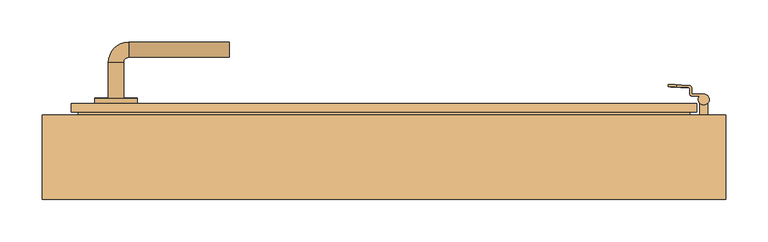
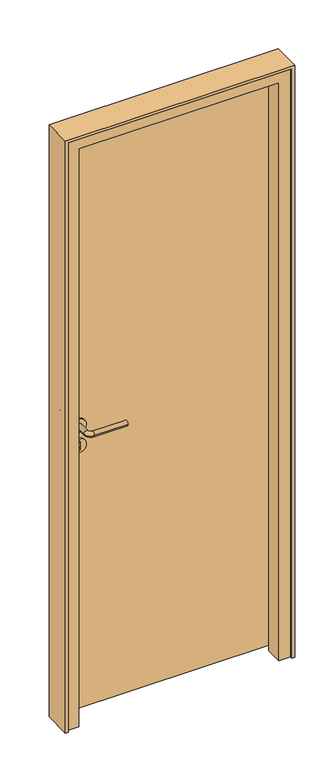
"""IFC4 building model written with IfcOpenShell, lengths in millimetres: door geometry, JW_Interior_Door_Steady_411_Single_1.0 : 790 x 1890 mm - M8 x M19."""

from ifc_helpers import new_model, si_unit, point, frame, frame_2d, origin, place, context, project, spatial, polyline, circle_curve, ellipse_curve, trimmed, segment, composite_curve, outline, extrude, faceted_brep, source, transform, mapped, element, save
from ifc_brep_helpers import plane_surface, cylinder_surface, revolved_surface, advanced_brep


def door_badb6875(model_context):
    return source(origin(), model_context, "Body", "SolidModel", [
        advanced_brep(
        [(373.7783893, 72.4981462, 1955.5), (378.8990677, 74.995861, 1955.5), (365.3903905, 74.995861, 1955.5), (364.5812249, 75.8050266, 1955.5), (364.5812249, 81.7870548, 1955.5), (361.3684354, 84.9998443, 1955.5), (352.0437223, 85.4885318, 1955.5), (347.0505746, 85.7502116, 1955.5), (346.9197347, 83.2536378, 1955.5), (351.9128824, 82.991958, 1955.5), (361.3, 82.5, 1955.5), (362.0997148, 81.7002852, 1955.5), (362.0997148, 75.6990018, 1955.5), (365.3005704, 72.4981462, 1955.5), (373.7783893, 72.4981462, 1890.5), (365.3005704, 72.4981462, 1890.5), (362.0997148, 75.6990018, 1890.5), (362.0997148, 81.7002852, 1890.5), (361.3, 82.5, 1890.5), (351.9128824, 82.991958, 1890.5), (346.9197347, 83.2536378, 1890.5), (347.0505746, 85.7502116, 1890.5), (352.0437223, 85.4885318, 1890.5), (361.3684354, 84.9998443, 1890.5), (364.5812249, 81.7870548, 1890.5), (364.5812249, 75.8050266, 1890.5), (365.3903905, 74.995861, 1890.5), (378.8990677, 74.995861, 1890.5), (378.8990677, 74.995861, 1910.0), (373.7783893, 72.4981462, 1910.0), (373.7783893, 72.4981462, 1936.0), (378.8990677, 74.995861, 1936.0), (365.3005704, 72.4981462, 1910.0), (365.3005704, 72.4981462, 1936.0), (362.0997148, 75.6990018, 1910.0), (362.0997148, 75.6990018, 1936.0), (362.0997148, 78.5, 1910.0), (362.0997148, 78.5, 1936.0), (336.9334394, 83.7769973, 1945.5), (336.9334394, 83.7769973, 1900.5), (337.0642792, 86.2735712, 1945.5), (337.0642792, 86.2735712, 1900.5), (364.5812249, 75.8050266, 1936.0), (364.5812249, 78.5, 1936.0), (364.5812249, 78.5, 1910.0), (364.5812249, 75.8050266, 1910.0), (365.3903905, 74.995861, 1910.0), (365.3903905, 74.995861, 1936.0)],
        [
            (0, 1, circle_curve(frame((378.8990677, 68.497936, 1955.5), z_axis=(0.0, 0.0, 1.0), x_axis=(-1.0, 0.0, 0.0)), 6.4979249)),
            (1, 2),
            (2, 3, circle_curve(frame((365.3903905, 75.8050266, 1955.5), z_axis=(0.0, 0.0, -1.0), x_axis=(-1.0, 0.0, 0.0)), 0.8091657)),
            (3, 4),
            (4, 5, circle_curve(frame((361.3684354, 81.7870548, 1955.5), z_axis=(0.0, 0.0, 1.0), x_axis=(-1.0, 0.0, 0.0)), 3.2127895)),
            (5, 6),
            (6, 7),
            (7, 8),
            (8, 9),
            (9, 10),
            (10, 11, circle_curve(frame((361.3, 81.7002852, 1955.5), z_axis=(0.0, 0.0, -1.0), x_axis=(-1.0, 0.0, 0.0)), 0.7997148)),
            (11, 12),
            (12, 13, circle_curve(frame((365.3005704, 75.6990018, 1955.5), z_axis=(0.0, 0.0, 1.0), x_axis=(-1.0, 0.0, 0.0)), 3.2008556)),
            (13, 0),
            (14, 15),
            (15, 16, circle_curve(frame((365.3005704, 75.6990018, 1890.5), z_axis=(0.0, 0.0, -1.0), x_axis=(-1.0, 0.0, 0.0)), 3.2008556)),
            (16, 17),
            (17, 18, circle_curve(frame((361.3, 81.7002852, 1890.5), z_axis=(0.0, 0.0, 1.0), x_axis=(-1.0, 0.0, 0.0)), 0.7997148)),
            (18, 19),
            (19, 20),
            (20, 21),
            (21, 22),
            (22, 23),
            (23, 24, circle_curve(frame((361.3684354, 81.7870548, 1890.5), z_axis=(0.0, 0.0, -1.0), x_axis=(-1.0, 0.0, 0.0)), 3.2127895)),
            (24, 25),
            (25, 26, circle_curve(frame((365.3903905, 75.8050266, 1890.5), z_axis=(0.0, 0.0, 1.0), x_axis=(-1.0, 0.0, 0.0)), 0.8091657)),
            (26, 27),
            (27, 14, circle_curve(frame((378.8990677, 68.497936, 1890.5), z_axis=(0.0, 0.0, -1.0), x_axis=(-1.0, 0.0, 0.0)), 6.4979249)),
            (27, 28),
            (28, 29, circle_curve(frame((378.8990677, 68.497936, 1910.0), z_axis=(0.0, 0.0, -1.0), x_axis=(-1.0, 0.0, 0.0)), 6.4979249)),
            (29, 14),
            (0, 30),
            (30, 31, circle_curve(frame((378.8990677, 68.497936, 1936.0), z_axis=(0.0, 0.0, 1.0), x_axis=(-1.0, 0.0, 0.0)), 6.4979249)),
            (31, 1),
            (29, 32),
            (32, 15),
            (13, 33),
            (33, 30),
            (32, 34, circle_curve(frame((365.3005704, 75.6990018, 1910.0), z_axis=(0.0, 0.0, -1.0), x_axis=(-1.0, 0.0, 0.0)), 3.2008556)),
            (34, 16),
            (12, 35),
            (35, 33, circle_curve(frame((365.3005704, 75.6990018, 1936.0), z_axis=(0.0, 0.0, 1.0), x_axis=(-1.0, 0.0, 0.0)), 3.2008556)),
            (11, 17),
            (34, 36),
            (36, 37),
            (37, 35),
            (10, 18),
            (8, 38, circle_curve(frame((346.9197347, 83.2536378, 1945.5), z_axis=(-0.05233595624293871, -0.9986295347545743, 0.0), x_axis=(0.9986295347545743, -0.05233595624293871, 0.0)), 10.0)),
            (38, 39),
            (39, 20, circle_curve(frame((346.9197347, 83.2536378, 1900.5), z_axis=(-0.05233595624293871, -0.9986295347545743, 0.0), x_axis=(0.9986295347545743, -0.05233595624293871, 0.0)), 10.0)),
            (38, 40),
            (40, 41),
            (41, 39),
            (21, 41, circle_curve(frame((347.0505746, 85.7502116, 1900.5), z_axis=(0.05233595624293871, 0.9986295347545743, 0.0), x_axis=(0.9986295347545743, -0.05233595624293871, 0.0)), 10.0)),
            (40, 7, circle_curve(frame((347.0505746, 85.7502116, 1945.5), z_axis=(0.05233595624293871, 0.9986295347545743, 0.0), x_axis=(0.9986295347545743, -0.05233595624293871, 0.0)), 10.0)),
            (5, 23),
            (4, 24),
            (3, 42),
            (42, 43),
            (43, 44),
            (44, 45),
            (45, 25),
            (45, 46, circle_curve(frame((365.3903905, 75.8050266, 1910.0), z_axis=(0.0, 0.0, 1.0), x_axis=(-1.0, 0.0, 0.0)), 0.8091657)),
            (46, 26),
            (2, 47),
            (47, 42, circle_curve(frame((365.3903905, 75.8050266, 1936.0), z_axis=(0.0, 0.0, -1.0), x_axis=(-1.0, 0.0, 0.0)), 0.8091657)),
            (31, 47),
            (46, 28),
            (37, 43),
            (44, 36),
        ],
        [
            plane_surface(frame((365.3005704, 72.4981462, 1955.5), z_axis=(0.0, 0.0, 1.0), x_axis=(-1.0, 0.0, 0.0))),
            plane_surface(frame((365.3005704, 72.4981462, 1890.5), z_axis=(0.0, 0.0, -1.0), x_axis=(1.0, 0.0, 0.0))),
            cylinder_surface(frame((378.8990677, 68.497936, 1890.5), z_axis=(0.0, 0.0, 1.0), x_axis=(-1.0, 0.0, 0.0)), 6.4979249),
            plane_surface(frame((373.7783893, 72.4981462, 1955.5), z_axis=(0.0, -1.0, 0.0), x_axis=(0.0, 0.0, -1.0))),
            cylinder_surface(frame((365.3005704, 75.6990018, 1890.5), z_axis=(0.0, 0.0, 1.0), x_axis=(-1.0, 0.0, 0.0)), 3.2008556),
            plane_surface(frame((362.0997148, 75.6990018, 1955.5), z_axis=(-1.0, 0.0, 0.0), x_axis=(0.0, 0.0, -1.0))),
            revolved_surface(polyline([(360.5002852, 81.7002852, 1890.5), (360.5002852, 81.7002852, 1955.5)]), (361.3, 81.7002852, 1890.5), (0.0, 0.0, -1.0)),
            plane_surface(frame((361.3, 82.5, 1955.5), z_axis=(-0.0523359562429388, -0.9986295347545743, 0.0), x_axis=(0.0, 0.0, -1.0))),
            plane_surface(frame((336.9334394, 83.7769973, 1955.5), z_axis=(-0.998629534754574, 0.05233595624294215, 0.0), x_axis=(0.0, 0.0, -1.0))),
            plane_surface(frame((337.0642792, 86.2735712, 1955.5), z_axis=(0.052335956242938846, 0.9986295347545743, 0.0), x_axis=(0.0, 0.0, -1.0))),
            cylinder_surface(frame((361.3684354, 81.7870548, 1890.5), z_axis=(0.0, 0.0, 1.0), x_axis=(-1.0, 0.0, 0.0)), 3.2127895),
            plane_surface(frame((364.5812249, 81.7870548, 1955.5), z_axis=(1.0, 0.0, 0.0), x_axis=(0.0, 0.0, -1.0))),
            revolved_surface(polyline([(364.58122480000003, 75.8050266, 1890.5), (364.58122480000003, 75.8050266, 1910.0)]), (365.3903905, 75.8050266, 1890.5), (0.0, 0.0, -1.0)),
            revolved_surface(polyline([(364.58122480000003, 75.8050266, 1936.0), (364.58122480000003, 75.8050266, 1955.5)]), (365.3903905, 75.8050266, 1890.5), (0.0, 0.0, -1.0)),
            plane_surface(frame((365.3903905, 74.995861, 1955.5), z_axis=(0.0, 1.0, 0.0), x_axis=(0.0, 0.0, -1.0))),
            plane_surface(frame((388.9564762, 60.9150154, 1936.0), z_axis=(0.0, 0.0, -1.0), x_axis=(0.0, -1.0, 0.0))),
            plane_surface(frame((388.9564762, 60.9150154, 1910.0), z_axis=(0.0, 0.0, 1.0), x_axis=(0.0, 1.0, 0.0))),
            plane_surface(frame((358.9564762, 78.5, 1936.0), z_axis=(0.0, -1.0, 0.0), x_axis=(0.0, 0.0, -1.0))),
            cylinder_surface(frame((346.6580549, 78.2604901, 1900.5), z_axis=(-0.05233595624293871, -0.9986295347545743, 0.0), x_axis=(0.9986295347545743, -0.05233595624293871, 0.0)), 10.0),
            cylinder_surface(frame((346.6580549, 78.2604901, 1945.5), z_axis=(-0.05233595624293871, -0.9986295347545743, 0.0), x_axis=(0.9986295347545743, -0.05233595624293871, 0.0)), 10.0),
        ],
        [
            (0, [[1, 2, 3, 4, 5, 6, 7, 8, 9, 10, 11, 12, 13, 14]]),
            (1, [[15, 16, 17, 18, 19, 20, 21, 22, 23, 24, 25, 26, 27, 28]]),
            (2, [[29, 30, 31, -28]]),
            (2, [[32, 33, 34, -1]]),
            (3, [[-31, 35, 36, -15]]),
            (3, [[37, 38, -32, -14]]),
            (4, [[-36, 39, 40, -16]]),
            (4, [[41, 42, -37, -13]]),
            (5, [[43, -17, -40, 44, 45, 46, -41, -12]]),
            (6, [[47, -18, -43, -11]]),
            (7, [[-10, -9, 48, 49, 50, -20, -19, -47]]),
            (8, [[51, 52, 53, -49]]),
            (9, [[-23, -22, 54, -52, 55, -7, -6, 56]]),
            (10, [[57, -24, -56, -5]]),
            (11, [[58, 59, 60, 61, 62, -25, -57, -4]]),
            (12, [[-62, 63, 64, -26]]),
            (13, [[65, 66, -58, -3]]),
            (14, [[-34, 67, -65, -2]]),
            (14, [[-64, 68, -29, -27]]),
            (15, [[-59, -66, -67, -33, -38, -42, -46, 69]]),
            (16, [[-44, -39, -35, -30, -68, -63, -61, 70]]),
            (17, [[-45, -70, -60, -69]]),
            (18, [[-50, -53, -54, -21]]),
            (19, [[-55, -51, -48, -8]]),
        ],
    ),
        extrude(outline(composite_curve([segment(trimmed(circle_curve(frame_2d((378.9, 68.5)), 3.75), [point((375.15, 68.5))], [point((382.65, 68.5))], False, "CARTESIAN"), True, "CONTINUOUS"), segment(trimmed(circle_curve(frame_2d((378.9, 68.5)), 3.75), [point((382.65, 68.5))], [point((375.15, 68.5))], False, "CARTESIAN"), True, "CONTINUOUS")], self_intersect=False)), frame((0.0, 0.0, 1890.5), z_axis=(0.0, 0.0, 1.0), x_axis=(1.0, 0.0, 0.0)), (0.0, 0.0, 1.0), 65.0),
        extrude(outline(composite_curve([segment(polyline([(383.9, 64.3466881), (383.9, 50.0), (373.9, 50.0), (373.9, 64.3466881)]), True, "CONTINUOUS"), segment(trimmed(circle_curve(frame_2d((378.9, 68.5)), 6.5), [point((373.9, 64.3466881))], [point((383.9, 64.3466881))], False, "CARTESIAN"), True, "CONTINUOUS")], self_intersect=False)), frame((0.0, 0.0, 1913.0), z_axis=(0.0, 0.0, 1.0), x_axis=(1.0, 0.0, 0.0)), (0.0, 0.0, 1.0), 20.0),
        advanced_brep(
        [(373.7783893, 72.4981462, 1705.5), (378.8990677, 74.995861, 1705.5), (365.3903905, 74.995861, 1705.5), (364.5812249, 75.8050266, 1705.5), (364.5812249, 81.7870548, 1705.5), (361.3684354, 84.9998443, 1705.5), (352.0437223, 85.4885318, 1705.5), (347.0505746, 85.7502116, 1705.5), (346.9197347, 83.2536378, 1705.5), (351.9128824, 82.991958, 1705.5), (361.3, 82.5, 1705.5), (362.0997148, 81.7002852, 1705.5), (362.0997148, 75.6990018, 1705.5), (365.3005704, 72.4981462, 1705.5), (373.7783893, 72.4981462, 1640.5), (365.3005704, 72.4981462, 1640.5), (362.0997148, 75.6990018, 1640.5), (362.0997148, 81.7002852, 1640.5), (361.3, 82.5, 1640.5), (351.9128824, 82.991958, 1640.5), (346.9197347, 83.2536378, 1640.5), (347.0505746, 85.7502116, 1640.5), (352.0437223, 85.4885318, 1640.5), (361.3684354, 84.9998443, 1640.5), (364.5812249, 81.7870548, 1640.5), (364.5812249, 75.8050266, 1640.5), (365.3903905, 74.995861, 1640.5), (378.8990677, 74.995861, 1640.5), (378.8990677, 74.995861, 1660.0), (373.7783893, 72.4981462, 1660.0), (373.7783893, 72.4981462, 1686.0), (378.8990677, 74.995861, 1686.0), (365.3005704, 72.4981462, 1660.0), (365.3005704, 72.4981462, 1686.0), (362.0997148, 75.6990018, 1660.0), (362.0997148, 75.6990018, 1686.0), (362.0997148, 78.5, 1660.0), (362.0997148, 78.5, 1686.0), (336.9334394, 83.7769973, 1695.5), (336.9334394, 83.7769973, 1650.5), (337.0642792, 86.2735712, 1695.5), (337.0642792, 86.2735712, 1650.5), (364.5812249, 75.8050266, 1686.0), (364.5812249, 78.5, 1686.0), (364.5812249, 78.5, 1660.0), (364.5812249, 75.8050266, 1660.0), (365.3903905, 74.995861, 1660.0), (365.3903905, 74.995861, 1686.0)],
        [
            (0, 1, circle_curve(frame((378.8990677, 68.497936, 1705.5), z_axis=(0.0, 0.0, 1.0), x_axis=(-1.0, 0.0, 0.0)), 6.4979249)),
            (1, 2),
            (2, 3, circle_curve(frame((365.3903905, 75.8050266, 1705.5), z_axis=(0.0, 0.0, -1.0), x_axis=(-1.0, 0.0, 0.0)), 0.8091657)),
            (3, 4),
            (4, 5, circle_curve(frame((361.3684354, 81.7870548, 1705.5), z_axis=(0.0, 0.0, 1.0), x_axis=(-1.0, 0.0, 0.0)), 3.2127895)),
            (5, 6),
            (6, 7),
            (7, 8),
            (8, 9),
            (9, 10),
            (10, 11, circle_curve(frame((361.3, 81.7002852, 1705.5), z_axis=(0.0, 0.0, -1.0), x_axis=(-1.0, 0.0, 0.0)), 0.7997148)),
            (11, 12),
            (12, 13, circle_curve(frame((365.3005704, 75.6990018, 1705.5), z_axis=(0.0, 0.0, 1.0), x_axis=(-1.0, 0.0, 0.0)), 3.2008556)),
            (13, 0),
            (14, 15),
            (15, 16, circle_curve(frame((365.3005704, 75.6990018, 1640.5), z_axis=(0.0, 0.0, -1.0), x_axis=(-1.0, 0.0, 0.0)), 3.2008556)),
            (16, 17),
            (17, 18, circle_curve(frame((361.3, 81.7002852, 1640.5), z_axis=(0.0, 0.0, 1.0), x_axis=(-1.0, 0.0, 0.0)), 0.7997148)),
            (18, 19),
            (19, 20),
            (20, 21),
            (21, 22),
            (22, 23),
            (23, 24, circle_curve(frame((361.3684354, 81.7870548, 1640.5), z_axis=(0.0, 0.0, -1.0), x_axis=(-1.0, 0.0, 0.0)), 3.2127895)),
            (24, 25),
            (25, 26, circle_curve(frame((365.3903905, 75.8050266, 1640.5), z_axis=(0.0, 0.0, 1.0), x_axis=(-1.0, 0.0, 0.0)), 0.8091657)),
            (26, 27),
            (27, 14, circle_curve(frame((378.8990677, 68.497936, 1640.5), z_axis=(0.0, 0.0, -1.0), x_axis=(-1.0, 0.0, 0.0)), 6.4979249)),
            (27, 28),
            (28, 29, circle_curve(frame((378.8990677, 68.497936, 1660.0), z_axis=(0.0, 0.0, -1.0), x_axis=(-1.0, 0.0, 0.0)), 6.4979249)),
            (29, 14),
            (0, 30),
            (30, 31, circle_curve(frame((378.8990677, 68.497936, 1686.0), z_axis=(0.0, 0.0, 1.0), x_axis=(-1.0, 0.0, 0.0)), 6.4979249)),
            (31, 1),
            (29, 32),
            (32, 15),
            (13, 33),
            (33, 30),
            (32, 34, circle_curve(frame((365.3005704, 75.6990018, 1660.0), z_axis=(0.0, 0.0, -1.0), x_axis=(-1.0, 0.0, 0.0)), 3.2008556)),
            (34, 16),
            (12, 35),
            (35, 33, circle_curve(frame((365.3005704, 75.6990018, 1686.0), z_axis=(0.0, 0.0, 1.0), x_axis=(-1.0, 0.0, 0.0)), 3.2008556)),
            (11, 17),
            (34, 36),
            (36, 37),
            (37, 35),
            (10, 18),
            (8, 38, circle_curve(frame((346.9197347, 83.2536378, 1695.5), z_axis=(-0.05233595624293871, -0.9986295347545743, 0.0), x_axis=(0.9986295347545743, -0.05233595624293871, 0.0)), 10.0)),
            (38, 39),
            (39, 20, circle_curve(frame((346.9197347, 83.2536378, 1650.5), z_axis=(-0.05233595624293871, -0.9986295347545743, 0.0), x_axis=(0.9986295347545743, -0.05233595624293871, 0.0)), 10.0)),
            (38, 40),
            (40, 41),
            (41, 39),
            (21, 41, circle_curve(frame((347.0505746, 85.7502116, 1650.5), z_axis=(0.05233595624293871, 0.9986295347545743, 0.0), x_axis=(0.9986295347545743, -0.05233595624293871, 0.0)), 10.0)),
            (40, 7, circle_curve(frame((347.0505746, 85.7502116, 1695.5), z_axis=(0.05233595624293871, 0.9986295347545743, 0.0), x_axis=(0.9986295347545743, -0.05233595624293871, 0.0)), 10.0)),
            (5, 23),
            (4, 24),
            (3, 42),
            (42, 43),
            (43, 44),
            (44, 45),
            (45, 25),
            (45, 46, circle_curve(frame((365.3903905, 75.8050266, 1660.0), z_axis=(0.0, 0.0, 1.0), x_axis=(-1.0, 0.0, 0.0)), 0.8091657)),
            (46, 26),
            (2, 47),
            (47, 42, circle_curve(frame((365.3903905, 75.8050266, 1686.0), z_axis=(0.0, 0.0, -1.0), x_axis=(-1.0, 0.0, 0.0)), 0.8091657)),
            (31, 47),
            (46, 28),
            (37, 43),
            (44, 36),
        ],
        [
            plane_surface(frame((365.3005704, 72.4981462, 1705.5), z_axis=(0.0, 0.0, 1.0), x_axis=(-1.0, 0.0, 0.0))),
            plane_surface(frame((365.3005704, 72.4981462, 1640.5), z_axis=(0.0, 0.0, -1.0), x_axis=(1.0, 0.0, 0.0))),
            cylinder_surface(frame((378.8990677, 68.497936, 1640.5), z_axis=(0.0, 0.0, 1.0), x_axis=(-1.0, 0.0, 0.0)), 6.4979249),
            plane_surface(frame((373.7783893, 72.4981462, 1705.5), z_axis=(0.0, -1.0, 0.0), x_axis=(0.0, 0.0, -1.0))),
            cylinder_surface(frame((365.3005704, 75.6990018, 1640.5), z_axis=(0.0, 0.0, 1.0), x_axis=(-1.0, 0.0, 0.0)), 3.2008556),
            plane_surface(frame((362.0997148, 75.6990018, 1705.5), z_axis=(-1.0, 0.0, 0.0), x_axis=(0.0, 0.0, -1.0))),
            revolved_surface(polyline([(360.5002852, 81.7002852, 1640.5), (360.5002852, 81.7002852, 1705.5)]), (361.3, 81.7002852, 1640.5), (0.0, 0.0, -1.0)),
            plane_surface(frame((361.3, 82.5, 1705.5), z_axis=(-0.0523359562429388, -0.9986295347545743, 0.0), x_axis=(0.0, 0.0, -1.0))),
            plane_surface(frame((336.9334394, 83.7769973, 1705.5), z_axis=(-0.998629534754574, 0.05233595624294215, 0.0), x_axis=(0.0, 0.0, -1.0))),
            plane_surface(frame((337.0642792, 86.2735712, 1705.5), z_axis=(0.052335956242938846, 0.9986295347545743, 0.0), x_axis=(0.0, 0.0, -1.0))),
            cylinder_surface(frame((361.3684354, 81.7870548, 1640.5), z_axis=(0.0, 0.0, 1.0), x_axis=(-1.0, 0.0, 0.0)), 3.2127895),
            plane_surface(frame((364.5812249, 81.7870548, 1705.5), z_axis=(1.0, 0.0, 0.0), x_axis=(0.0, 0.0, -1.0))),
            revolved_surface(polyline([(364.58122480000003, 75.8050266, 1640.5), (364.58122480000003, 75.8050266, 1660.0)]), (365.3903905, 75.8050266, 1640.5), (0.0, 0.0, -1.0)),
            revolved_surface(polyline([(364.58122480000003, 75.8050266, 1686.0), (364.58122480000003, 75.8050266, 1705.5)]), (365.3903905, 75.8050266, 1640.5), (0.0, 0.0, -1.0)),
            plane_surface(frame((365.3903905, 74.995861, 1705.5), z_axis=(0.0, 1.0, 0.0), x_axis=(0.0, 0.0, -1.0))),
            plane_surface(frame((388.9564762, 60.9150154, 1686.0), z_axis=(0.0, 0.0, -1.0), x_axis=(0.0, -1.0, 0.0))),
            plane_surface(frame((388.9564762, 60.9150154, 1660.0), z_axis=(0.0, 0.0, 1.0), x_axis=(0.0, 1.0, 0.0))),
            plane_surface(frame((358.9564762, 78.5, 1686.0), z_axis=(0.0, -1.0, 0.0), x_axis=(0.0, 0.0, -1.0))),
            cylinder_surface(frame((346.6580549, 78.2604901, 1650.5), z_axis=(-0.05233595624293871, -0.9986295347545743, 0.0), x_axis=(0.9986295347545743, -0.05233595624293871, 0.0)), 10.0),
            cylinder_surface(frame((346.6580549, 78.2604901, 1695.5), z_axis=(-0.05233595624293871, -0.9986295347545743, 0.0), x_axis=(0.9986295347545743, -0.05233595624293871, 0.0)), 10.0),
        ],
        [
            (0, [[1, 2, 3, 4, 5, 6, 7, 8, 9, 10, 11, 12, 13, 14]]),
            (1, [[15, 16, 17, 18, 19, 20, 21, 22, 23, 24, 25, 26, 27, 28]]),
            (2, [[29, 30, 31, -28]]),
            (2, [[32, 33, 34, -1]]),
            (3, [[-31, 35, 36, -15]]),
            (3, [[37, 38, -32, -14]]),
            (4, [[-36, 39, 40, -16]]),
            (4, [[41, 42, -37, -13]]),
            (5, [[43, -17, -40, 44, 45, 46, -41, -12]]),
            (6, [[47, -18, -43, -11]]),
            (7, [[-10, -9, 48, 49, 50, -20, -19, -47]]),
            (8, [[51, 52, 53, -49]]),
            (9, [[-23, -22, 54, -52, 55, -7, -6, 56]]),
            (10, [[57, -24, -56, -5]]),
            (11, [[58, 59, 60, 61, 62, -25, -57, -4]]),
            (12, [[-62, 63, 64, -26]]),
            (13, [[65, 66, -58, -3]]),
            (14, [[-34, 67, -65, -2]]),
            (14, [[-64, 68, -29, -27]]),
            (15, [[-59, -66, -67, -33, -38, -42, -46, 69]]),
            (16, [[-44, -39, -35, -30, -68, -63, -61, 70]]),
            (17, [[-45, -70, -60, -69]]),
            (18, [[-50, -53, -54, -21]]),
            (19, [[-55, -51, -48, -8]]),
        ],
    ),
        extrude(outline(composite_curve([segment(trimmed(circle_curve(frame_2d((378.9, 68.5)), 3.75), [point((375.15, 68.5))], [point((382.65, 68.5))], False, "CARTESIAN"), True, "CONTINUOUS"), segment(trimmed(circle_curve(frame_2d((378.9, 68.5)), 3.75), [point((382.65, 68.5))], [point((375.15, 68.5))], False, "CARTESIAN"), True, "CONTINUOUS")], self_intersect=False)), frame((0.0, 0.0, 1640.5), z_axis=(0.0, 0.0, 1.0), x_axis=(1.0, 0.0, 0.0)), (0.0, 0.0, 1.0), 65.0),
        extrude(outline(composite_curve([segment(polyline([(383.9, 64.3466881), (383.9, 50.0), (373.9, 50.0), (373.9, 64.3466881)]), True, "CONTINUOUS"), segment(trimmed(circle_curve(frame_2d((378.9, 68.5)), 6.5), [point((373.9, 64.3466881))], [point((383.9, 64.3466881))], False, "CARTESIAN"), True, "CONTINUOUS")], self_intersect=False)), frame((0.0, 0.0, 1663.0), z_axis=(0.0, 0.0, 1.0), x_axis=(1.0, 0.0, 0.0)), (0.0, 0.0, 1.0), 20.0),
        advanced_brep(
        [(373.7783893, 72.4981462, 295.5), (378.8990677, 74.995861, 295.5), (365.3903905, 74.995861, 295.5), (364.5812249, 75.8050266, 295.5), (364.5812249, 81.7870548, 295.5), (361.3684354, 84.9998443, 295.5), (352.0437223, 85.4885318, 295.5), (347.0505746, 85.7502116, 295.5), (346.9197347, 83.2536378, 295.5), (351.9128824, 82.991958, 295.5), (361.3, 82.5, 295.5), (362.0997148, 81.7002852, 295.5), (362.0997148, 75.6990018, 295.5), (365.3005704, 72.4981462, 295.5), (373.7783893, 72.4981462, 230.5), (365.3005704, 72.4981462, 230.5), (362.0997148, 75.6990018, 230.5), (362.0997148, 81.7002852, 230.5), (361.3, 82.5, 230.5), (351.9128824, 82.991958, 230.5), (346.9197347, 83.2536378, 230.5), (347.0505746, 85.7502116, 230.5), (352.0437223, 85.4885318, 230.5), (361.3684354, 84.9998443, 230.5), (364.5812249, 81.7870548, 230.5), (364.5812249, 75.8050266, 230.5), (365.3903905, 74.995861, 230.5), (378.8990677, 74.995861, 230.5), (378.8990677, 74.995861, 250.0), (373.7783893, 72.4981462, 250.0), (373.7783893, 72.4981462, 276.0), (378.8990677, 74.995861, 276.0), (365.3005704, 72.4981462, 250.0), (365.3005704, 72.4981462, 276.0), (362.0997148, 75.6990018, 250.0), (362.0997148, 75.6990018, 276.0), (362.0997148, 78.5, 250.0), (362.0997148, 78.5, 276.0), (336.9334394, 83.7769973, 285.5), (336.9334394, 83.7769973, 240.5), (337.0642792, 86.2735712, 285.5), (337.0642792, 86.2735712, 240.5), (364.5812249, 75.8050266, 276.0), (364.5812249, 78.5, 276.0), (364.5812249, 78.5, 250.0), (364.5812249, 75.8050266, 250.0), (365.3903905, 74.995861, 250.0), (365.3903905, 74.995861, 276.0)],
        [
            (0, 1, circle_curve(frame((378.8990677, 68.497936, 295.5), z_axis=(0.0, 0.0, 1.0), x_axis=(-1.0, 0.0, 0.0)), 6.4979249)),
            (1, 2),
            (2, 3, circle_curve(frame((365.3903905, 75.8050266, 295.5), z_axis=(0.0, 0.0, -1.0), x_axis=(-1.0, 0.0, 0.0)), 0.8091657)),
            (3, 4),
            (4, 5, circle_curve(frame((361.3684354, 81.7870548, 295.5), z_axis=(0.0, 0.0, 1.0), x_axis=(-1.0, 0.0, 0.0)), 3.2127895)),
            (5, 6),
            (6, 7),
            (7, 8),
            (8, 9),
            (9, 10),
            (10, 11, circle_curve(frame((361.3, 81.7002852, 295.5), z_axis=(0.0, 0.0, -1.0), x_axis=(-1.0, 0.0, 0.0)), 0.7997148)),
            (11, 12),
            (12, 13, circle_curve(frame((365.3005704, 75.6990018, 295.5), z_axis=(0.0, 0.0, 1.0), x_axis=(-1.0, 0.0, 0.0)), 3.2008556)),
            (13, 0),
            (14, 15),
            (15, 16, circle_curve(frame((365.3005704, 75.6990018, 230.5), z_axis=(0.0, 0.0, -1.0), x_axis=(-1.0, 0.0, 0.0)), 3.2008556)),
            (16, 17),
            (17, 18, circle_curve(frame((361.3, 81.7002852, 230.5), z_axis=(0.0, 0.0, 1.0), x_axis=(-1.0, 0.0, 0.0)), 0.7997148)),
            (18, 19),
            (19, 20),
            (20, 21),
            (21, 22),
            (22, 23),
            (23, 24, circle_curve(frame((361.3684354, 81.7870548, 230.5), z_axis=(0.0, 0.0, -1.0), x_axis=(-1.0, 0.0, 0.0)), 3.2127895)),
            (24, 25),
            (25, 26, circle_curve(frame((365.3903905, 75.8050266, 230.5), z_axis=(0.0, 0.0, 1.0), x_axis=(-1.0, 0.0, 0.0)), 0.8091657)),
            (26, 27),
            (27, 14, circle_curve(frame((378.8990677, 68.497936, 230.5), z_axis=(0.0, 0.0, -1.0), x_axis=(-1.0, 0.0, 0.0)), 6.4979249)),
            (27, 28),
            (28, 29, circle_curve(frame((378.8990677, 68.497936, 250.0), z_axis=(0.0, 0.0, -1.0), x_axis=(-1.0, 0.0, 0.0)), 6.4979249)),
            (29, 14),
            (0, 30),
            (30, 31, circle_curve(frame((378.8990677, 68.497936, 276.0), z_axis=(0.0, 0.0, 1.0), x_axis=(-1.0, 0.0, 0.0)), 6.4979249)),
            (31, 1),
            (29, 32),
            (32, 15),
            (13, 33),
            (33, 30),
            (32, 34, circle_curve(frame((365.3005704, 75.6990018, 250.0), z_axis=(0.0, 0.0, -1.0), x_axis=(-1.0, 0.0, 0.0)), 3.2008556)),
            (34, 16),
            (12, 35),
            (35, 33, circle_curve(frame((365.3005704, 75.6990018, 276.0), z_axis=(0.0, 0.0, 1.0), x_axis=(-1.0, 0.0, 0.0)), 3.2008556)),
            (11, 17),
            (34, 36),
            (36, 37),
            (37, 35),
            (10, 18),
            (8, 38, circle_curve(frame((346.9197347, 83.2536378, 285.5), z_axis=(-0.05233595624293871, -0.9986295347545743, 0.0), x_axis=(0.9986295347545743, -0.05233595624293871, 0.0)), 10.0)),
            (38, 39),
            (39, 20, circle_curve(frame((346.9197347, 83.2536378, 240.5), z_axis=(-0.05233595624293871, -0.9986295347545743, 0.0), x_axis=(0.9986295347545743, -0.05233595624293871, 0.0)), 10.0)),
            (38, 40),
            (40, 41),
            (41, 39),
            (21, 41, circle_curve(frame((347.0505746, 85.7502116, 240.5), z_axis=(0.05233595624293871, 0.9986295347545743, 0.0), x_axis=(0.9986295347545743, -0.05233595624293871, 0.0)), 10.0)),
            (40, 7, circle_curve(frame((347.0505746, 85.7502116, 285.5), z_axis=(0.05233595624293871, 0.9986295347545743, 0.0), x_axis=(0.9986295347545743, -0.05233595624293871, 0.0)), 10.0)),
            (5, 23),
            (4, 24),
            (3, 42),
            (42, 43),
            (43, 44),
            (44, 45),
            (45, 25),
            (45, 46, circle_curve(frame((365.3903905, 75.8050266, 250.0), z_axis=(0.0, 0.0, 1.0), x_axis=(-1.0, 0.0, 0.0)), 0.8091657)),
            (46, 26),
            (2, 47),
            (47, 42, circle_curve(frame((365.3903905, 75.8050266, 276.0), z_axis=(0.0, 0.0, -1.0), x_axis=(-1.0, 0.0, 0.0)), 0.8091657)),
            (31, 47),
            (46, 28),
            (37, 43),
            (44, 36),
        ],
        [
            plane_surface(frame((365.3005704, 72.4981462, 295.5), z_axis=(0.0, 0.0, 1.0), x_axis=(-1.0, 0.0, 0.0))),
            plane_surface(frame((365.3005704, 72.4981462, 230.5), z_axis=(0.0, 0.0, -1.0), x_axis=(1.0, 0.0, 0.0))),
            cylinder_surface(frame((378.8990677, 68.497936, 230.5), z_axis=(0.0, 0.0, 1.0), x_axis=(-1.0, 0.0, 0.0)), 6.4979249),
            plane_surface(frame((373.7783893, 72.4981462, 295.5), z_axis=(0.0, -1.0, 0.0), x_axis=(0.0, 0.0, -1.0))),
            cylinder_surface(frame((365.3005704, 75.6990018, 230.5), z_axis=(0.0, 0.0, 1.0), x_axis=(-1.0, 0.0, 0.0)), 3.2008556),
            plane_surface(frame((362.0997148, 75.6990018, 295.5), z_axis=(-1.0, 0.0, 0.0), x_axis=(0.0, 0.0, -1.0))),
            revolved_surface(polyline([(360.5002852, 81.7002852, 230.5), (360.5002852, 81.7002852, 295.5)]), (361.3, 81.7002852, 230.5), (0.0, 0.0, -1.0)),
            plane_surface(frame((361.3, 82.5, 295.5), z_axis=(-0.0523359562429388, -0.9986295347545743, 0.0), x_axis=(0.0, 0.0, -1.0))),
            plane_surface(frame((336.9334394, 83.7769973, 295.5), z_axis=(-0.998629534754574, 0.05233595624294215, 0.0), x_axis=(0.0, 0.0, -1.0))),
            plane_surface(frame((337.0642792, 86.2735712, 295.5), z_axis=(0.052335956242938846, 0.9986295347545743, 0.0), x_axis=(0.0, 0.0, -1.0))),
            cylinder_surface(frame((361.3684354, 81.7870548, 230.5), z_axis=(0.0, 0.0, 1.0), x_axis=(-1.0, 0.0, 0.0)), 3.2127895),
            plane_surface(frame((364.5812249, 81.7870548, 295.5), z_axis=(1.0, 0.0, 0.0), x_axis=(0.0, 0.0, -1.0))),
            revolved_surface(polyline([(364.58122480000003, 75.8050266, 230.5), (364.58122480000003, 75.8050266, 250.0)]), (365.3903905, 75.8050266, 230.5), (0.0, 0.0, -1.0)),
            revolved_surface(polyline([(364.58122480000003, 75.8050266, 276.0), (364.58122480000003, 75.8050266, 295.5)]), (365.3903905, 75.8050266, 230.5), (0.0, 0.0, -1.0)),
            plane_surface(frame((365.3903905, 74.995861, 295.5), z_axis=(0.0, 1.0, 0.0), x_axis=(0.0, 0.0, -1.0))),
            plane_surface(frame((388.9564762, 60.9150154, 276.0), z_axis=(0.0, 0.0, -1.0), x_axis=(0.0, -1.0, 0.0))),
            plane_surface(frame((388.9564762, 60.9150154, 250.0), z_axis=(0.0, 0.0, 1.0), x_axis=(0.0, 1.0, 0.0))),
            plane_surface(frame((358.9564762, 78.5, 276.0), z_axis=(0.0, -1.0, 0.0), x_axis=(0.0, 0.0, -1.0))),
            cylinder_surface(frame((346.6580549, 78.2604901, 240.5), z_axis=(-0.05233595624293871, -0.9986295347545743, 0.0), x_axis=(0.9986295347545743, -0.05233595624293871, 0.0)), 10.0),
            cylinder_surface(frame((346.6580549, 78.2604901, 285.5), z_axis=(-0.05233595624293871, -0.9986295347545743, 0.0), x_axis=(0.9986295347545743, -0.05233595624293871, 0.0)), 10.0),
        ],
        [
            (0, [[1, 2, 3, 4, 5, 6, 7, 8, 9, 10, 11, 12, 13, 14]]),
            (1, [[15, 16, 17, 18, 19, 20, 21, 22, 23, 24, 25, 26, 27, 28]]),
            (2, [[29, 30, 31, -28]]),
            (2, [[32, 33, 34, -1]]),
            (3, [[-31, 35, 36, -15]]),
            (3, [[37, 38, -32, -14]]),
            (4, [[-36, 39, 40, -16]]),
            (4, [[41, 42, -37, -13]]),
            (5, [[43, -17, -40, 44, 45, 46, -41, -12]]),
            (6, [[47, -18, -43, -11]]),
            (7, [[-10, -9, 48, 49, 50, -20, -19, -47]]),
            (8, [[51, 52, 53, -49]]),
            (9, [[-23, -22, 54, -52, 55, -7, -6, 56]]),
            (10, [[57, -24, -56, -5]]),
            (11, [[58, 59, 60, 61, 62, -25, -57, -4]]),
            (12, [[-62, 63, 64, -26]]),
            (13, [[65, 66, -58, -3]]),
            (14, [[-34, 67, -65, -2]]),
            (14, [[-64, 68, -29, -27]]),
            (15, [[-59, -66, -67, -33, -38, -42, -46, 69]]),
            (16, [[-44, -39, -35, -30, -68, -63, -61, 70]]),
            (17, [[-45, -70, -60, -69]]),
            (18, [[-50, -53, -54, -21]]),
            (19, [[-55, -51, -48, -8]]),
        ],
    ),
        extrude(outline(composite_curve([segment(trimmed(circle_curve(frame_2d((378.9, 68.5)), 3.75), [point((375.15, 68.5))], [point((382.65, 68.5))], False, "CARTESIAN"), True, "CONTINUOUS"), segment(trimmed(circle_curve(frame_2d((378.9, 68.5)), 3.75), [point((382.65, 68.5))], [point((375.15, 68.5))], False, "CARTESIAN"), True, "CONTINUOUS")], self_intersect=False)), frame((0.0, 0.0, 230.5), z_axis=(0.0, 0.0, 1.0), x_axis=(1.0, 0.0, 0.0)), (0.0, 0.0, 1.0), 65.0),
        extrude(outline(composite_curve([segment(polyline([(383.9, 64.3466881), (383.9, 50.0), (373.9, 50.0), (373.9, 64.3466881)]), True, "CONTINUOUS"), segment(trimmed(circle_curve(frame_2d((378.9, 68.5)), 6.5), [point((373.9, 64.3466881))], [point((383.9, 64.3466881))], False, "CARTESIAN"), True, "CONTINUOUS")], self_intersect=False)), frame((0.0, 0.0, 253.0), z_axis=(0.0, 0.0, 1.0), x_axis=(1.0, 0.0, 0.0)), (0.0, 0.0, 1.0), 20.0),
        faceted_brep([(-395.0, -42.0, 0.0), (-395.0, 50.0, 0.0), (-365.0, 50.0, 0.0), (-365.0, 20.0, 0.0), (-353.0, 20.0, 0.0), (-353.0, -42.0, 0.0), (-395.0, -42.0, 2200.0), (-395.0, 50.0, 2200.0), (395.0, 50.0, 2200.0), (395.0, 50.0, 0.0), (365.0, 50.0, 0.0), (365.0, 50.0, 2170.0), (-365.0, 50.0, 2170.0), (-365.0, 20.0, 2170.0), (365.0, 20.0, 2170.0), (365.0, 20.0, 0.0), (353.0, 20.0, 0.0), (353.0, 20.0, 2158.0), (-353.0, 20.0, 2158.0), (-353.0, -42.0, 2158.0), (353.0, -42.0, 2158.0), (353.0, -42.0, 0.0), (395.0, -42.0, 0.0), (395.0, -42.0, 2200.0)], [[[0, 1, 2, 3, 4, 5]], [[1, 0, 6, 7]], [[2, 1, 7, 8, 9, 10, 11, 12]], [[3, 2, 12, 13]], [[4, 3, 13, 14, 15, 16, 17, 18]], [[5, 4, 18, 19]], [[0, 5, 19, 20, 21, 22, 23, 6]], [[8, 23, 22, 9]], [[22, 21, 16, 15, 10, 9]], [[14, 11, 10, 15]], [[20, 17, 16, 21]], [[7, 6, 23, 8]], [[13, 12, 11, 14]], [[19, 18, 17, 20]]]),
        extrude(outline(composite_curve([segment(trimmed(circle_curve(frame_2d((1001.0, -317.5)), 25.0), [point((1001.0, -292.5))], [point((1001.0, -342.5))], False, "CARTESIAN"), True, "CONTINUOUS"), segment(trimmed(circle_curve(frame_2d((1001.0, -317.5)), 25.0), [point((1001.0, -342.5))], [point((1001.0, -292.5))], False, "CARTESIAN"), True, "CONTINUOUS")], self_intersect=False), holes=[composite_curve([segment(trimmed(circle_curve(frame_2d((1012.243411, -317.5)), 4.0), [point((1012.243411, -321.5))], [point((1012.243411, -313.5))], True, "CARTESIAN"), True, "CONTINUOUS"), segment(polyline([(1012.243411, -313.5), (989.756589, -313.5)]), True, "CONTINUOUS"), segment(trimmed(circle_curve(frame_2d((989.756589, -317.5)), 4.0), [point((989.756589, -313.5))], [point((989.756589, -321.5))], True, "CARTESIAN"), True, "CONTINUOUS"), segment(polyline([(989.756589, -321.5), (1012.243411, -321.5)]), True, "CONTINUOUS")], self_intersect=False)]), frame((0.0, 16.5, 0.0), z_axis=(0.0, 1.0, 0.0), x_axis=(0.0, 0.0, 1.0)), (0.0, 0.0, 1.0), 7.0),
        extrude(outline(composite_curve([segment(trimmed(circle_curve(frame_2d((1001.0, -317.5)), 25.0), [point((1001.0, -292.5))], [point((1001.0, -342.5))], False, "CARTESIAN"), True, "CONTINUOUS"), segment(trimmed(circle_curve(frame_2d((1001.0, -317.5)), 25.0), [point((1001.0, -342.5))], [point((1001.0, -292.5))], False, "CARTESIAN"), True, "CONTINUOUS")], self_intersect=False), holes=[composite_curve([segment(polyline([(989.756589, -321.5), (1012.243411, -321.5)]), True, "CONTINUOUS"), segment(trimmed(circle_curve(frame_2d((1012.243411, -317.5)), 4.0), [point((1012.243411, -321.5))], [point((1012.243411, -313.5))], True, "CARTESIAN"), True, "CONTINUOUS"), segment(polyline([(1012.243411, -313.5), (989.756589, -313.5)]), True, "CONTINUOUS"), segment(trimmed(circle_curve(frame_2d((989.756589, -317.5)), 4.0), [point((989.756589, -313.5))], [point((989.756589, -321.5))], True, "CARTESIAN"), True, "CONTINUOUS")], self_intersect=False)]), frame((0.0, 63.5, 0.0), z_axis=(0.0, 1.0, 0.0), x_axis=(0.0, 0.0, 1.0)), (0.0, 0.0, 1.0), 7.0),
        advanced_brep(
        [(-342.5, 17.5, 1075.0), (-292.5, 17.5, 1075.0), (-308.5346073, 17.5, 1075.0), (-326.4653927, 17.5, 1075.0), (-342.5, 23.5, 1075.0), (-292.5, 23.5, 1075.0), (-326.4653927, -25.4627146, 1075.0), (-308.5346073, -25.4627146, 1075.0), (-302.5, -49.4281073, 1075.0), (-302.5, -31.4973219, 1075.0), (-183.5, -31.4973219, 1075.0), (-183.5, -49.4281073, 1075.0)],
        [
            (0, 1, circle_curve(frame((-317.5, 17.5, 1075.0), z_axis=(0.0, -1.0, 0.0), x_axis=(1.0, 0.0, 0.0)), 25.0)),
            (1, 0, circle_curve(frame((-317.5, 17.5, 1075.0), z_axis=(0.0, -1.0, 0.0), x_axis=(1.0, 0.0, 0.0)), 25.0)),
            (2, 3, circle_curve(frame((-317.5, 17.5, 1075.0), z_axis=(0.0, 1.0, 0.0), x_axis=(-1.0, 0.0, 0.0)), 8.9653927)),
            (3, 2, circle_curve(frame((-317.5, 17.5, 1075.0), z_axis=(0.0, 1.0, 0.0), x_axis=(-1.0, 0.0, 0.0)), 8.9653927)),
            (4, 5, circle_curve(frame((-317.5, 23.5, 1075.0), z_axis=(0.0, 1.0, 0.0), x_axis=(1.0, 0.0, 0.0)), 25.0)),
            (5, 4, circle_curve(frame((-317.5, 23.5, 1075.0), z_axis=(0.0, 1.0, 0.0), x_axis=(1.0, 0.0, 0.0)), 25.0)),
            (0, 4),
            (5, 1),
            (3, 6),
            (6, 7, circle_curve(frame((-317.5, -25.4627146, 1075.0), z_axis=(0.0, 1.0, 0.0), x_axis=(-1.0, 0.0, 0.0)), 8.9653927)),
            (7, 2),
            (7, 6, circle_curve(frame((-317.5, -25.4627146, 1075.0), z_axis=(0.0, 1.0, 0.0), x_axis=(-1.0, 0.0, 0.0)), 8.9653927)),
            (6, 8, circle_curve(frame((-302.5, -25.4627146, 1075.0), z_axis=(0.0, 0.0, 1.0), x_axis=(-1.0, 0.0, 0.0)), 23.9653927)),
            (8, 9, circle_curve(frame((-302.5, -40.4627146, 1075.0), z_axis=(-1.0, 0.0, 0.0), x_axis=(0.0, -1.0, 0.0)), 8.9653927)),
            (9, 7, circle_curve(frame((-302.5, -25.4627146, 1075.0), z_axis=(0.0, 0.0, -1.0), x_axis=(-1.0, 0.0, 0.0)), 6.0346073)),
            (9, 8, circle_curve(frame((-302.5, -40.4627146, 1075.0), z_axis=(-1.0, 0.0, 0.0), x_axis=(0.0, -1.0, 0.0)), 8.9653927)),
            (10, 11, circle_curve(frame((-183.5, -40.4627146, 1075.0), z_axis=(1.0, 0.0, 0.0), x_axis=(0.0, -1.0, 0.0)), 8.9653927)),
            (11, 10, circle_curve(frame((-183.5, -40.4627146, 1075.0), z_axis=(1.0, 0.0, 0.0), x_axis=(0.0, -1.0, 0.0)), 8.9653927)),
            (8, 11),
            (10, 9),
        ],
        [
            plane_surface(frame((-292.5, 17.5, 1075.0), z_axis=(0.0, -1.0, 0.0), x_axis=(0.0, 0.0, -1.0))),
            plane_surface(frame((-292.5, 23.5, 1075.0), z_axis=(0.0, 1.0, 0.0), x_axis=(0.0, 0.0, 1.0))),
            cylinder_surface(frame((-317.5, 17.5, 1075.0), z_axis=(0.0, 1.0, 0.0), x_axis=(1.0, 0.0, 0.0)), 25.0),
            cylinder_surface(frame((-317.5, 17.5, 1075.0), z_axis=(0.0, 1.0, 0.0), x_axis=(-1.0, 0.0, 0.0)), 8.9653927),
            revolved_surface(trimmed(ellipse_curve(frame((-317.5, -25.4627146, 1075.0), z_axis=(0.0, -1.0, 0.0), x_axis=(-1.0, 0.0, 0.0)), 8.9653927, 8.9653927), [point((-308.5346073, -25.4627146, 1075.0))], [point((-326.4653927, -25.4627146, 1075.0))], True, "CARTESIAN"), (-302.5, -25.4627146, 1075.0), (0.0, 0.0, -1.0)),
            revolved_surface(trimmed(ellipse_curve(frame((-317.5, -25.4627146, 1075.0), z_axis=(0.0, -1.0, 0.0), x_axis=(-1.0, 0.0, 0.0)), 8.9653927, 8.9653927), [point((-326.4653927, -25.4627146, 1075.0))], [point((-308.5346073, -25.4627146, 1075.0))], True, "CARTESIAN"), (-302.5, -25.4627146, 1075.0), (0.0, 0.0, -1.0)),
            plane_surface(frame((-183.5, -40.4627146, 1075.0), z_axis=(1.0, 0.0, 0.0), x_axis=(0.0, 0.0, 1.0))),
            cylinder_surface(frame((-302.5, -40.4627146, 1075.0), z_axis=(-1.0, 0.0, 0.0), x_axis=(0.0, -1.0, 0.0)), 8.9653927),
        ],
        [
            (0, [[1, 2], [3, 4]]),
            (1, [[5, 6]]),
            (2, [[7, -6, 8, -1]]),
            (2, [[-8, -5, -7, -2]]),
            (3, [[-4, 9, 10, 11]]),
            (3, [[12, -9, -3, -11]]),
            (4, [[13, 14, 15, -10]]),
            (5, [[-15, 16, -13, -12]]),
            (6, [[17, 18]]),
            (7, [[19, -17, 20, -14]]),
            (7, [[-20, -18, -19, -16]]),
        ],
    ),
        advanced_brep(
        [(-342.5, 69.5, 1075.0), (-292.5, 69.5, 1075.0), (-308.5346073, 69.5, 1075.0), (-326.4653927, 69.5, 1075.0), (-342.5, 63.5, 1075.0), (-292.5, 63.5, 1075.0), (-308.5346073, 112.4627146, 1075.0), (-326.4653927, 112.4627146, 1075.0), (-302.5, 118.4973219, 1075.0), (-302.5, 136.4281073, 1075.0), (-183.5, 118.4973219, 1075.0), (-183.5, 136.4281073, 1075.0)],
        [
            (0, 1, circle_curve(frame((-317.5, 69.5, 1075.0), z_axis=(0.0, 1.0, 0.0), x_axis=(1.0, 0.0, 0.0)), 25.0)),
            (1, 0, circle_curve(frame((-317.5, 69.5, 1075.0), z_axis=(0.0, 1.0, 0.0), x_axis=(1.0, 0.0, 0.0)), 25.0)),
            (2, 3, circle_curve(frame((-317.5, 69.5, 1075.0), z_axis=(0.0, -1.0, 0.0), x_axis=(-1.0, 0.0, 0.0)), 8.9653927)),
            (3, 2, circle_curve(frame((-317.5, 69.5, 1075.0), z_axis=(0.0, -1.0, 0.0), x_axis=(-1.0, 0.0, 0.0)), 8.9653927)),
            (4, 5, circle_curve(frame((-317.5, 63.5, 1075.0), z_axis=(0.0, -1.0, 0.0), x_axis=(1.0, 0.0, 0.0)), 25.0)),
            (5, 4, circle_curve(frame((-317.5, 63.5, 1075.0), z_axis=(0.0, -1.0, 0.0), x_axis=(1.0, 0.0, 0.0)), 25.0)),
            (1, 5),
            (4, 0),
            (2, 6),
            (6, 7, circle_curve(frame((-317.5, 112.4627146, 1075.0), z_axis=(0.0, -1.0, 0.0), x_axis=(-1.0, 0.0, 0.0)), 8.9653927)),
            (7, 3),
            (7, 6, circle_curve(frame((-317.5, 112.4627146, 1075.0), z_axis=(0.0, -1.0, 0.0), x_axis=(-1.0, 0.0, 0.0)), 8.9653927)),
            (6, 8, circle_curve(frame((-302.5, 112.4627146, 1075.0), z_axis=(0.0, 0.0, -1.0), x_axis=(-1.0, 0.0, 0.0)), 6.0346073)),
            (8, 9, circle_curve(frame((-302.5, 127.4627146, 1075.0), z_axis=(-1.0, 0.0, 0.0), x_axis=(0.0, 1.0, 0.0)), 8.9653927)),
            (9, 7, circle_curve(frame((-302.5, 112.4627146, 1075.0), z_axis=(0.0, 0.0, 1.0), x_axis=(-1.0, 0.0, 0.0)), 23.9653927)),
            (9, 8, circle_curve(frame((-302.5, 127.4627146, 1075.0), z_axis=(-1.0, 0.0, 0.0), x_axis=(0.0, 1.0, 0.0)), 8.9653927)),
            (10, 11, circle_curve(frame((-183.5, 127.4627146, 1075.0), z_axis=(1.0, 0.0, 0.0), x_axis=(0.0, 1.0, 0.0)), 8.9653927)),
            (11, 10, circle_curve(frame((-183.5, 127.4627146, 1075.0), z_axis=(1.0, 0.0, 0.0), x_axis=(0.0, 1.0, 0.0)), 8.9653927)),
            (8, 10),
            (11, 9),
        ],
        [
            plane_surface(frame((-292.5, 69.5, 1075.0), z_axis=(0.0, 1.0, 0.0), x_axis=(0.0, 0.0, -1.0))),
            plane_surface(frame((-292.5, 63.5, 1075.0), z_axis=(0.0, -1.0, 0.0), x_axis=(0.0, 0.0, 1.0))),
            cylinder_surface(frame((-317.5, 69.5, 1075.0), z_axis=(0.0, -1.0, 0.0), x_axis=(1.0, 0.0, 0.0)), 25.0),
            cylinder_surface(frame((-317.5, 69.5, 1075.0), z_axis=(0.0, -1.0, 0.0), x_axis=(-1.0, 0.0, 0.0)), 8.9653927),
            revolved_surface(trimmed(ellipse_curve(frame((-317.5, 112.4627146, 1075.0), z_axis=(0.0, -1.0, 0.0), x_axis=(-1.0, 0.0, 0.0)), 8.9653927, 8.9653927), [point((-308.5346073, 112.4627146, 1075.0))], [point((-326.4653927, 112.4627146, 1075.0))], True, "CARTESIAN"), (-302.5, 112.4627146, 1075.0), (0.0, 0.0, -1.0)),
            revolved_surface(trimmed(ellipse_curve(frame((-317.5, 112.4627146, 1075.0), z_axis=(0.0, -1.0, 0.0), x_axis=(-1.0, 0.0, 0.0)), 8.9653927, 8.9653927), [point((-326.4653927, 112.4627146, 1075.0))], [point((-308.5346073, 112.4627146, 1075.0))], True, "CARTESIAN"), (-302.5, 112.4627146, 1075.0), (0.0, 0.0, -1.0)),
            plane_surface(frame((-183.5, 127.4627146, 1075.0), z_axis=(1.0, 0.0, 0.0), x_axis=(0.0, 0.0, 1.0))),
            cylinder_surface(frame((-302.5, 127.4627146, 1075.0), z_axis=(-1.0, 0.0, 0.0), x_axis=(0.0, 1.0, 0.0)), 8.9653927),
        ],
        [
            (0, [[1, 2], [3, 4]]),
            (1, [[5, 6]]),
            (2, [[-2, 7, -5, 8]]),
            (2, [[-1, -8, -6, -7]]),
            (3, [[9, 10, 11, -3]]),
            (3, [[-9, -4, -11, 12]]),
            (4, [[-10, 13, 14, 15]]),
            (5, [[-12, -15, 16, -13]]),
            (6, [[17, 18]]),
            (7, [[-14, 19, -18, 20]]),
            (7, [[-16, -20, -17, -19]]),
        ],
    ),
        faceted_brep([(360.4021956, 23.5, 18.0), (360.4021956, 23.5, 2168.0), (-360.4021956, 23.5, 2168.0), (-360.4021956, 23.5, 18.0), (362.5, 53.5, 18.0), (362.5, 53.5, 2168.0), (-362.5, 53.5, 2168.0), (-362.5, 53.5, 18.0), (-370.5, 63.5, 2174.0), (370.5, 63.5, 2174.0), (370.5, 63.5, 12.0), (-370.5, 63.5, 12.0), (370.5, 53.5, 2174.0), (370.5, 53.5, 12.0), (-370.5, 53.5, 12.0), (-370.5, 53.5, 2174.0)], [[[0, 1, 2, 3]], [[1, 0, 4, 5]], [[3, 2, 6, 7]], [[7, 4, 0, 3]], [[8, 9, 10, 11]], [[10, 9, 12, 13]], [[11, 10, 13, 14]], [[8, 11, 14, 15]], [[14, 13, 12, 15], [6, 5, 4, 7]], [[9, 8, 15, 12]], [[5, 6, 2, 1]]]),
        extrude(outline(polyline([(0.0, 395.0), (0.0, 405.0), (2210.0, 405.0), (2210.0, -405.0), (0.0, -405.0), (0.0, -395.0), (2200.0, -395.0), (2200.0, 395.0), (0.0, 395.0)])), frame((0.0, -50.0, 0.0), z_axis=(0.0, 1.0, 0.0), x_axis=(0.0, 0.0, 1.0)), (0.0, 0.0, 1.0), 100.0),
    ])


if __name__ == "__main__":
    model = new_model("IFC4")
    model_context = context("Model", 3, world=origin())
    ifc_project = project(units=[si_unit("LENGTHUNIT", "METRE", prefix="MILLI")], contexts=[model_context])
    site = spatial("IfcSite", under=ifc_project)
    building = spatial("IfcBuilding", under=site)
    placement = place(None, origin())
    door_shape = door_badb6875(model_context)
    element("IfcDoor", 1, ObjectType="JW_Interior_Door_Steady_411_Single_1.0 : 790 x 1890 mm - M8 x M19", at=placement, inside=building, context=model_context, shape_type="MappedRepresentation", body=[
        mapped(door_shape, transform((0.0, 0.0, 0.0), x_axis=(1.0, 0.0, 0.0), y_axis=(0.0, 1.0, 0.0), z_axis=(0.0, 0.0, 1.0))),
    ])
    save(model, "model.ifc")
